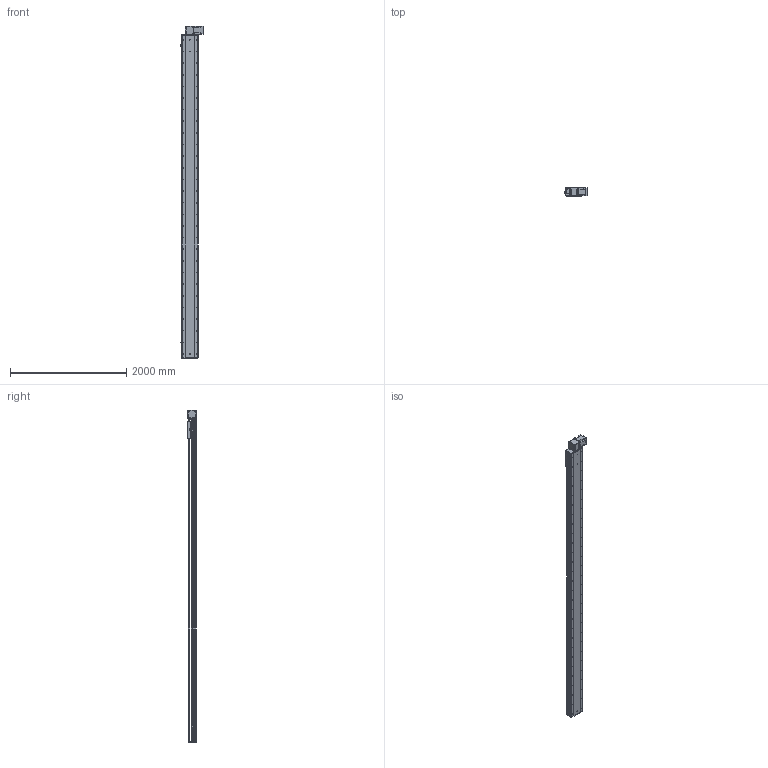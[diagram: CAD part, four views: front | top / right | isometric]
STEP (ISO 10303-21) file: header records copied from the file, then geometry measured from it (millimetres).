
FILE_DESCRIPTION (( 'STEP AP214' ), '1' );
FILE_NAME ('RTB28S-XX-5100-BL-M100-XX-C4.STEP', '2025-12-22T02:53:34', ( '' ), ( '' ), 'SwSTEP 2.0', 'SolidWorks 2018', '' );
FILE_SCHEMA (( 'AUTOMOTIVE_DESIGN' ));
Length unit declared in the file: millimetre
Products named in the file (4): RTB28S-XX-5100-BL-M100-XX-C4; RTB28S-GY-008^RTB28S-XX-XX-BL-M100-XX-C4; RTB28S-GY-004^RTB28S-XX-XX-BL-M100-XX-C4; RTB28S-GY-011^RTB28S-XX-XX-BL-M100-XX-C4
Assembly tree (3 placements, depth 2):
  RTB28S-XX-5100-BL-M100-XX-C4
    RTB28S-GY-011^RTB28S-XX-XX-BL-M100-XX-C4
    RTB28S-GY-004^RTB28S-XX-XX-BL-M100-XX-C4
    RTB28S-GY-008^RTB28S-XX-XX-BL-M100-XX-C4
Bounding box: 380.7 x 145 x 5707 mm (x, y, z)
Volume: 94187798.3 mm3; surface area: 8686445 mm2
Topology: 3 solids, 4 shells, 988 faces, 2688 edges, 1728 vertices
Faces by surface type: cylinder 519, plane 385, cone 80, torus 4
Entity records: 39233 total; most frequent: CARTESIAN_POINT 8002, DIRECTION 5742, ORIENTED_EDGE 5312, EDGE_CURVE 2656, AXIS2_PLACEMENT_3D 2156, VERTEX_POINT 1728, LINE 1430, VECTOR 1430
